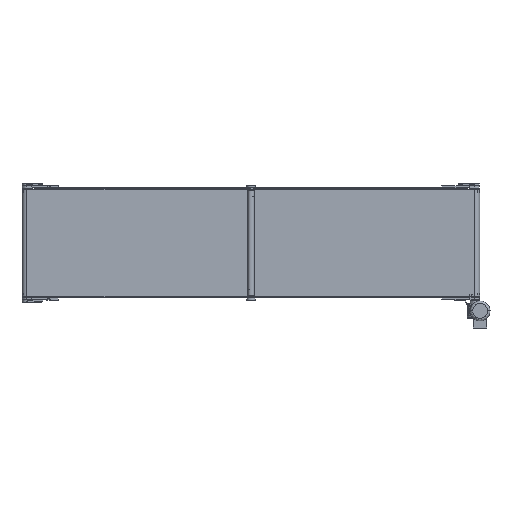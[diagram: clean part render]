
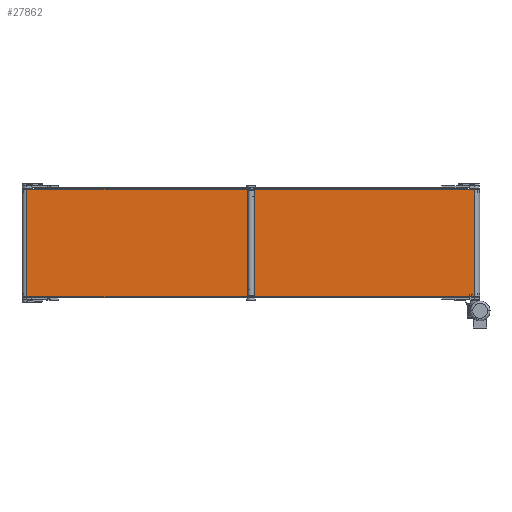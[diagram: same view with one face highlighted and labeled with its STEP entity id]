
A CAD part, front view. The second image highlights one B-rep face of the part: STEP entity #27862.
In plain terms, the highlighted planar face has unit normal (0, -1, 0).
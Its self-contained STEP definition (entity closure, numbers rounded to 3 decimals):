
#2446 = LINE ( 'NONE', #130355, #10188 ) ;
#2745 = FACE_OUTER_BOUND ( 'NONE', #23153, .T. ) ;
#10188 = VECTOR ( 'NONE', #107897, 1000. ) ;
#12237 = VECTOR ( 'NONE', #152661, 1000. ) ;
#12355 = CARTESIAN_POINT ( 'NONE',  ( -1250., -27., -300. ) ) ;
#15013 = EDGE_CURVE ( 'NONE', #119317, #55464, #125154, .T. ) ;
#23153 = EDGE_LOOP ( 'NONE', ( #65873, #133509, #143108, #56840 ) ) ;
#26752 = DIRECTION ( 'NONE',  ( 0., 0., 1. ) ) ;
#27862 = ADVANCED_FACE ( 'NONE', ( #2745 ), #145313, .F. ) ;
#29053 = DIRECTION ( 'NONE',  ( 0., 0., -1. ) ) ;
#32528 = AXIS2_PLACEMENT_3D ( 'NONE', #109688, #50004, #26752 ) ;
#37746 = VECTOR ( 'NONE', #66141, 1000. ) ;
#39295 = EDGE_CURVE ( 'NONE', #44820, #72762, #2446, .T. ) ;
#42186 = CARTESIAN_POINT ( 'NONE',  ( 1250., -27., 300. ) ) ;
#44820 = VERTEX_POINT ( 'NONE', #50468 ) ;
#50004 = DIRECTION ( 'NONE',  ( 0., 1., 0. ) ) ;
#50468 = CARTESIAN_POINT ( 'NONE',  ( -1250., -27., 300. ) ) ;
#55464 = VERTEX_POINT ( 'NONE', #129570 ) ;
#55996 = CARTESIAN_POINT ( 'NONE',  ( -1250., -27., -300. ) ) ;
#56840 = ORIENTED_EDGE ( 'NONE', *, *, #39295, .T. ) ;
#65873 = ORIENTED_EDGE ( 'NONE', *, *, #152331, .T. ) ;
#66141 = DIRECTION ( 'NONE',  ( 1., 0., 0. ) ) ;
#72762 = VERTEX_POINT ( 'NONE', #55996 ) ;
#88675 = LINE ( 'NONE', #135925, #37746 ) ;
#107897 = DIRECTION ( 'NONE',  ( 0., 0., -1. ) ) ;
#109688 = CARTESIAN_POINT ( 'NONE',  ( -1250., -27., 300. ) ) ;
#117066 = LINE ( 'NONE', #12355, #12237 ) ;
#117273 = VECTOR ( 'NONE', #29053, 1000. ) ;
#119317 = VERTEX_POINT ( 'NONE', #150829 ) ;
#121385 = EDGE_CURVE ( 'NONE', #44820, #119317, #88675, .T. ) ;
#125154 = LINE ( 'NONE', #42186, #117273 ) ;
#129570 = CARTESIAN_POINT ( 'NONE',  ( 1250., -27., -300. ) ) ;
#130355 = CARTESIAN_POINT ( 'NONE',  ( -1250., -27., 300. ) ) ;
#133509 = ORIENTED_EDGE ( 'NONE', *, *, #15013, .F. ) ;
#135925 = CARTESIAN_POINT ( 'NONE',  ( -1250., -27., 300. ) ) ;
#143108 = ORIENTED_EDGE ( 'NONE', *, *, #121385, .F. ) ;
#145313 = PLANE ( 'NONE',  #32528 ) ;
#150829 = CARTESIAN_POINT ( 'NONE',  ( 1250., -27., 300. ) ) ;
#152331 = EDGE_CURVE ( 'NONE', #72762, #55464, #117066, .T. ) ;
#152661 = DIRECTION ( 'NONE',  ( 1., 0., 0. ) ) ;
